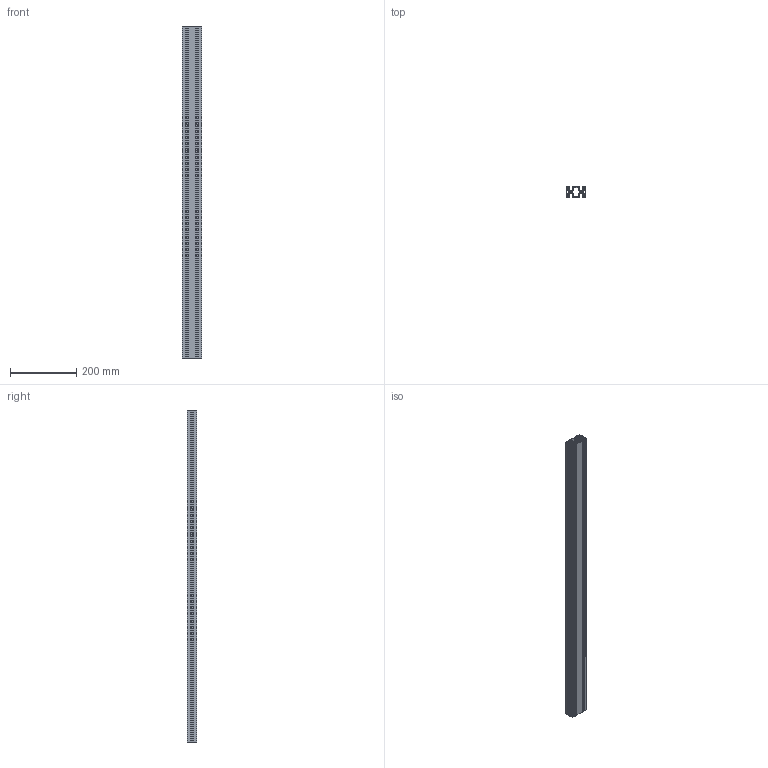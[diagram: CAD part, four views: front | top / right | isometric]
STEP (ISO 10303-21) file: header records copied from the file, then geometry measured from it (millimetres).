
FILE_DESCRIPTION((''),'2;1');
FILE_NAME('\\Dtp_2\share\iriguchi2\M6フレーム\AFS-3060L-6.stp','2014-12-02T14:09:58',('AMS8'),(''),'Autodesk Inventor 2008','Autodesk Inventor 2008','');
FILE_SCHEMA(('AUTOMOTIVE_DESIGN { 1 0 10303 214 1 1 1 1 }'));
Length unit declared in the file: millimetre
Products named in the file (1): Part82
Bounding box: 60 x 30 x 1000 mm (x, y, z)
Volume: 590468.3 mm3; surface area: 574189.5 mm2
Topology: 1 solids, 1 shells, 340 faces, 1014 edges, 676 vertices
Faces by surface type: cylinder 188, plane 152
Full cylindrical faces by diameter (mm): 5 x2
Entity records: 11598 total; most frequent: DIRECTION 2070, CARTESIAN_POINT 2029, ORIENTED_EDGE 2024, EDGE_CURVE 1012, AXIS2_PLACEMENT_3D 717, VERTEX_POINT 676, VECTOR 636, LINE 636
